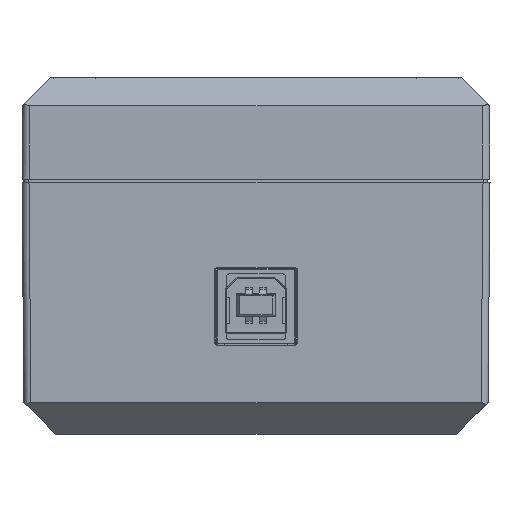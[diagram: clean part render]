
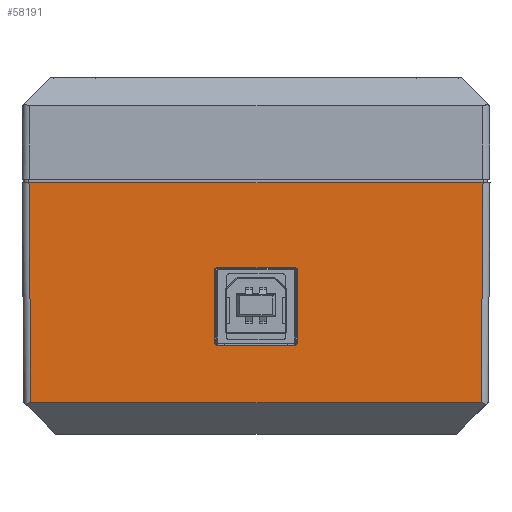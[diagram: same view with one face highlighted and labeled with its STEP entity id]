
A CAD part, left-side view. The second image highlights one B-rep face of the part: STEP entity #58191.
In plain terms, the highlighted planar face has unit normal (-1, 0, -0.009).
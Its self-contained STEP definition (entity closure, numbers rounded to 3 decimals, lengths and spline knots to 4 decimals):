
#5488=LINE('',#96772,#11568);
#5527=LINE('',#96880,#11607);
#5528=LINE('',#96886,#11608);
#5529=LINE('',#96887,#11609);
#5530=LINE('',#96892,#11610);
#5531=LINE('',#96895,#11611);
#5532=LINE('',#96897,#11612);
#5533=LINE('',#96900,#11613);
#11568=VECTOR('',#72422,2.5591);
#11607=VECTOR('',#72495,1.2403);
#11608=VECTOR('',#72502,1.2403);
#11609=VECTOR('',#72503,2.5374);
#11610=VECTOR('',#72506,0.4336);
#11611=VECTOR('',#72509,0.3976);
#11612=VECTOR('',#72510,0.4336);
#11613=VECTOR('',#72513,0.3976);
#15494=PLANE('',#61430);
#16398=FACE_BOUND('',#22506,.T.);
#19100=FACE_OUTER_BOUND('',#22505,.T.);
#22505=EDGE_LOOP('',(#49726,#49727,#49728,#49729));
#22506=EDGE_LOOP('',(#49730,#49731,#49732,#49733,#49734,#49735,#49736,#49737));
#23816=CIRCLE('',#61216,0.0197);
#23907=CIRCLE('',#61431,0.0197);
#23908=CIRCLE('',#61432,0.0197);
#23909=CIRCLE('',#61433,0.0197);
#28180=VERTEX_POINT('',#95768);
#28181=VERTEX_POINT('',#95770);
#28412=VERTEX_POINT('',#96769);
#28413=VERTEX_POINT('',#96771);
#28451=VERTEX_POINT('',#96879);
#28453=VERTEX_POINT('',#96885);
#28454=VERTEX_POINT('',#96888);
#28455=VERTEX_POINT('',#96889);
#28456=VERTEX_POINT('',#96891);
#28457=VERTEX_POINT('',#96893);
#28458=VERTEX_POINT('',#96896);
#28459=VERTEX_POINT('',#96898);
#35452=EDGE_CURVE('',#28181,#28180,#23816,.T.);
#35732=EDGE_CURVE('',#28412,#28413,#5488,.T.);
#35779=EDGE_CURVE('',#28451,#28412,#5527,.T.);
#35782=EDGE_CURVE('',#28413,#28453,#5528,.T.);
#35783=EDGE_CURVE('',#28453,#28451,#5529,.T.);
#35784=EDGE_CURVE('',#28454,#28455,#23907,.T.);
#35785=EDGE_CURVE('',#28455,#28456,#5530,.T.);
#35786=EDGE_CURVE('',#28456,#28457,#23908,.T.);
#35787=EDGE_CURVE('',#28457,#28181,#5531,.T.);
#35788=EDGE_CURVE('',#28180,#28458,#5532,.T.);
#35789=EDGE_CURVE('',#28458,#28459,#23909,.T.);
#35790=EDGE_CURVE('',#28459,#28454,#5533,.T.);
#49726=ORIENTED_EDGE('',*,*,#35782,.F.);
#49727=ORIENTED_EDGE('',*,*,#35732,.F.);
#49728=ORIENTED_EDGE('',*,*,#35779,.F.);
#49729=ORIENTED_EDGE('',*,*,#35783,.F.);
#49730=ORIENTED_EDGE('',*,*,#35784,.T.);
#49731=ORIENTED_EDGE('',*,*,#35785,.T.);
#49732=ORIENTED_EDGE('',*,*,#35786,.T.);
#49733=ORIENTED_EDGE('',*,*,#35787,.T.);
#49734=ORIENTED_EDGE('',*,*,#35452,.T.);
#49735=ORIENTED_EDGE('',*,*,#35788,.T.);
#49736=ORIENTED_EDGE('',*,*,#35789,.T.);
#49737=ORIENTED_EDGE('',*,*,#35790,.T.);
#58191=ADVANCED_FACE('',(#19100,#16398),#15494,.T.);
#61216=AXIS2_PLACEMENT_3D('',#95771,#71892,#71893);
#61430=AXIS2_PLACEMENT_3D('',#96884,#72500,#72501);
#61431=AXIS2_PLACEMENT_3D('',#96890,#72504,#72505);
#61432=AXIS2_PLACEMENT_3D('',#96894,#72507,#72508);
#61433=AXIS2_PLACEMENT_3D('',#96899,#72511,#72512);
#71892=DIRECTION('center_axis',(1.,0.,0.009));
#71893=DIRECTION('ref_axis',(0.009,0.,-1.));
#72422=DIRECTION('',(0.,-1.,0.));
#72495=DIRECTION('',(-0.009,0.009,1.));
#72500=DIRECTION('center_axis',(-1.,0.,-0.009));
#72501=DIRECTION('ref_axis',(0.009,0.,-1.));
#72502=DIRECTION('',(0.009,0.009,-1.));
#72503=DIRECTION('',(0.,1.,0.));
#72504=DIRECTION('center_axis',(1.,0.,0.009));
#72505=DIRECTION('ref_axis',(-0.009,0.,1.));
#72506=DIRECTION('',(0.,-1.,0.));
#72507=DIRECTION('center_axis',(1.,0.,0.009));
#72508=DIRECTION('ref_axis',(0.,-1.,0.));
#72509=DIRECTION('',(0.009,0.,-1.));
#72510=DIRECTION('',(0.,1.,0.));
#72511=DIRECTION('center_axis',(1.,0.,0.009));
#72512=DIRECTION('ref_axis',(0.,1.,0.));
#72513=DIRECTION('',(-0.009,0.,1.));
#95768=CARTESIAN_POINT('',(-1.9605,-0.4727,-1.2112));
#95770=CARTESIAN_POINT('',(-1.9607,-0.4924,-1.1916));
#95771=CARTESIAN_POINT('Origin',(-1.9607,-0.4727,-1.1916));
#96769=CARTESIAN_POINT('',(-1.9685,1.0236,-0.2953));
#96771=CARTESIAN_POINT('',(-1.9685,-1.5354,-0.2953));
#96772=CARTESIAN_POINT('',(-1.9685,1.0236,-0.2953));
#96879=CARTESIAN_POINT('',(-1.9577,1.0128,-1.5354));
#96880=CARTESIAN_POINT('',(-1.9577,1.0128,-1.5354));
#96884=CARTESIAN_POINT('Origin',(-1.9685,1.063,-0.2953));
#96885=CARTESIAN_POINT('',(-1.9577,-1.5246,-1.5354));
#96886=CARTESIAN_POINT('',(-1.9685,-1.5354,-0.2953));
#96887=CARTESIAN_POINT('',(-1.9577,-1.5246,-1.5354));
#96888=CARTESIAN_POINT('',(-1.9642,-0.0194,-0.7939));
#96889=CARTESIAN_POINT('',(-1.9643,-0.0391,-0.7743));
#96890=CARTESIAN_POINT('Origin',(-1.9642,-0.0391,-0.7939));
#96891=CARTESIAN_POINT('',(-1.9643,-0.4727,-0.7743));
#96892=CARTESIAN_POINT('',(-1.9643,0.512,-0.7743));
#96893=CARTESIAN_POINT('',(-1.9642,-0.4924,-0.7939));
#96894=CARTESIAN_POINT('Origin',(-1.9642,-0.4727,-0.7939));
#96895=CARTESIAN_POINT('',(-1.9663,-0.4924,-0.5446));
#96896=CARTESIAN_POINT('',(-1.9605,-0.0391,-1.2112));
#96897=CARTESIAN_POINT('',(-1.9605,0.2951,-1.2112));
#96898=CARTESIAN_POINT('',(-1.9607,-0.0194,-1.1916));
#96899=CARTESIAN_POINT('Origin',(-1.9607,-0.0391,
-1.1916));
#96900=CARTESIAN_POINT('',(-1.9646,-0.0194,-0.7434));
